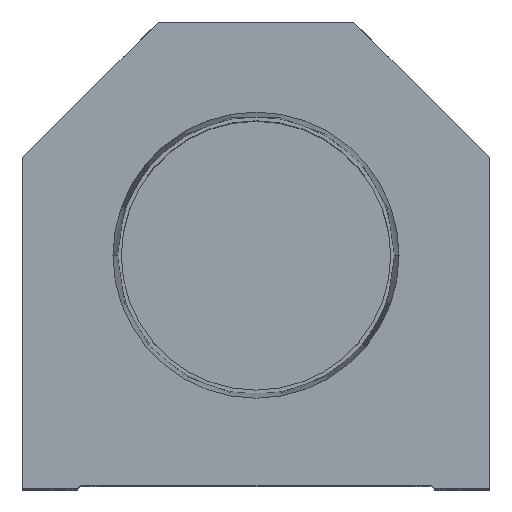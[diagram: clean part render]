
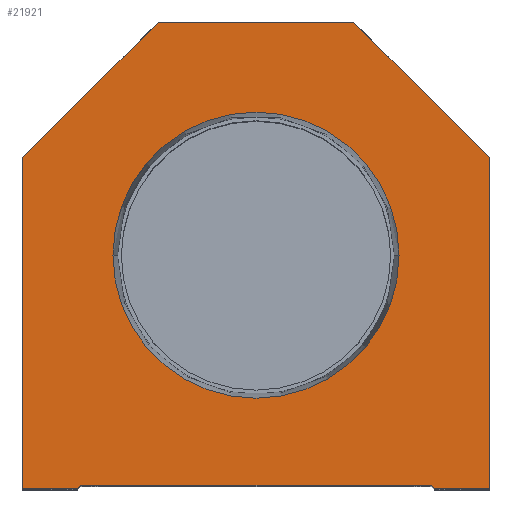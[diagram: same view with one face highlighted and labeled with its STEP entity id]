
A CAD part, top view. The second image highlights one B-rep face of the part: STEP entity #21921.
In plain terms, the highlighted planar face has unit normal (0, 0, 1).
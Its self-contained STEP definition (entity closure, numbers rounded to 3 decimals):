
#25 = EDGE_LOOP ( 'NONE', ( #15084, #17031, #11211, #6535, #15220, #6486, #11793, #7292, #10328, #7569 ) ) ;
#254 = EDGE_CURVE ( 'NONE', #734, #632, #16065, .T. ) ;
#263 = AXIS2_PLACEMENT_3D ( 'NONE', #3483, #15299, #10227 ) ;
#632 = VERTEX_POINT ( 'NONE', #1878 ) ;
#734 = VERTEX_POINT ( 'NONE', #7835 ) ;
#856 = CARTESIAN_POINT ( 'NONE',  ( -38.1, 0., 0. ) ) ;
#932 = DIRECTION ( 'NONE',  ( 1., 0., 0. ) ) ;
#1244 = FACE_OUTER_BOUND ( 'NONE', #25, .T. ) ;
#1878 = CARTESIAN_POINT ( 'NONE',  ( -38.1, 0., 0. ) ) ;
#2164 = LINE ( 'NONE', #7378, #8214 ) ;
#2434 = VERTEX_POINT ( 'NONE', #14974 ) ;
#2582 = EDGE_LOOP ( 'NONE', ( #12334, #3732 ) ) ;
#2747 = DIRECTION ( 'NONE',  ( -0.707, 0.707, 0. ) ) ;
#2836 = CARTESIAN_POINT ( 'NONE',  ( 38.1, 0., 0. ) ) ;
#3035 = LINE ( 'NONE', #21687, #14725 ) ;
#3303 = VERTEX_POINT ( 'NONE', #12957 ) ;
#3483 = CARTESIAN_POINT ( 'NONE',  ( 0., 38.1, 0. ) ) ;
#3732 = ORIENTED_EDGE ( 'NONE', *, *, #20862, .F. ) ;
#3981 = LINE ( 'NONE', #15868, #12181 ) ;
#4033 = VERTEX_POINT ( 'NONE', #8810 ) ;
#4284 = EDGE_CURVE ( 'NONE', #7764, #17236, #7236, .T. ) ;
#4377 = CARTESIAN_POINT ( 'NONE',  ( -28.6, 0.5, 0. ) ) ;
#4427 = EDGE_CURVE ( 'NONE', #632, #2434, #3035, .T. ) ;
#4461 = AXIS2_PLACEMENT_3D ( 'NONE', #12916, #14609, #932 ) ;
#4684 = VECTOR ( 'NONE', #14087, 1000. ) ;
#4967 = EDGE_CURVE ( 'NONE', #2434, #13727, #2164, .T. ) ;
#5177 = CARTESIAN_POINT ( 'NONE',  ( -23.374, 38.1, 0. ) ) ;
#5424 = LINE ( 'NONE', #7175, #13328 ) ;
#5931 = DIRECTION ( 'NONE',  ( 0., -1., 0. ) ) ;
#5938 = VERTEX_POINT ( 'NONE', #20999 ) ;
#6232 = DIRECTION ( 'NONE',  ( 1., 0., 0. ) ) ;
#6486 = ORIENTED_EDGE ( 'NONE', *, *, #17978, .T. ) ;
#6535 = ORIENTED_EDGE ( 'NONE', *, *, #13121, .T. ) ;
#7013 = CARTESIAN_POINT ( 'NONE',  ( 28.6, 0., 0. ) ) ;
#7101 = LINE ( 'NONE', #19027, #13000 ) ;
#7175 = CARTESIAN_POINT ( 'NONE',  ( -28.6, 0.5, 0. ) ) ;
#7236 = LINE ( 'NONE', #7013, #4684 ) ;
#7292 = ORIENTED_EDGE ( 'NONE', *, *, #21814, .T. ) ;
#7378 = CARTESIAN_POINT ( 'NONE',  ( -14.55, 14.55, 0. ) ) ;
#7464 = DIRECTION ( 'NONE',  ( 1., 0., 0. ) ) ;
#7569 = ORIENTED_EDGE ( 'NONE', *, *, #254, .T. ) ;
#7718 = EDGE_CURVE ( 'NONE', #5938, #734, #14228, .T. ) ;
#7764 = VERTEX_POINT ( 'NONE', #20960 ) ;
#7835 = CARTESIAN_POINT ( 'NONE',  ( -38.1, 54.1, 0. ) ) ;
#8214 = VECTOR ( 'NONE', #21169, 1000. ) ;
#8810 = CARTESIAN_POINT ( 'NONE',  ( 28.6, 0.5, 0. ) ) ;
#8859 = CARTESIAN_POINT ( 'NONE',  ( 23.374, 38.1, 0. ) ) ;
#8909 = VERTEX_POINT ( 'NONE', #14257 ) ;
#8964 = CIRCLE ( 'NONE', #18636, 23.374 ) ;
#9394 = CIRCLE ( 'NONE', #263, 23.374 ) ;
#9556 = LINE ( 'NONE', #2836, #17584 ) ;
#9768 = VECTOR ( 'NONE', #18973, 1000. ) ;
#10227 = DIRECTION ( 'NONE',  ( 1., 0., 0. ) ) ;
#10328 = ORIENTED_EDGE ( 'NONE', *, *, #7718, .T. ) ;
#11145 = VECTOR ( 'NONE', #5931, 1000. ) ;
#11211 = ORIENTED_EDGE ( 'NONE', *, *, #17564, .T. ) ;
#11793 = ORIENTED_EDGE ( 'NONE', *, *, #17700, .T. ) ;
#12181 = VECTOR ( 'NONE', #14334, 1000. ) ;
#12334 = ORIENTED_EDGE ( 'NONE', *, *, #18774, .F. ) ;
#12916 = CARTESIAN_POINT ( 'NONE',  ( 0., 0., 0. ) ) ;
#12957 = CARTESIAN_POINT ( 'NONE',  ( 16., 76.2, 0. ) ) ;
#13000 = VECTOR ( 'NONE', #13947, 1000. ) ;
#13121 = EDGE_CURVE ( 'NONE', #4033, #7764, #3981, .T. ) ;
#13143 = PLANE ( 'NONE',  #4461 ) ;
#13328 = VECTOR ( 'NONE', #14140, 1000. ) ;
#13349 = VERTEX_POINT ( 'NONE', #5177 ) ;
#13727 = VERTEX_POINT ( 'NONE', #4377 ) ;
#13947 = DIRECTION ( 'NONE',  ( -1., 0., 0. ) ) ;
#14087 = DIRECTION ( 'NONE',  ( 1., 0., 0. ) ) ;
#14140 = DIRECTION ( 'NONE',  ( 1., 0., 0. ) ) ;
#14228 = LINE ( 'NONE', #20645, #9768 ) ;
#14257 = CARTESIAN_POINT ( 'NONE',  ( 38.1, 54.1, 0. ) ) ;
#14334 = DIRECTION ( 'NONE',  ( 0.707, -0.707, 0. ) ) ;
#14609 = DIRECTION ( 'NONE',  ( 0., 0., 1. ) ) ;
#14652 = DIRECTION ( 'NONE',  ( 0., 1., 0. ) ) ;
#14721 = VERTEX_POINT ( 'NONE', #8859 ) ;
#14725 = VECTOR ( 'NONE', #6232, 1000. ) ;
#14804 = LINE ( 'NONE', #16211, #18302 ) ;
#14974 = CARTESIAN_POINT ( 'NONE',  ( -29.1, 0., 0. ) ) ;
#15084 = ORIENTED_EDGE ( 'NONE', *, *, #4427, .T. ) ;
#15220 = ORIENTED_EDGE ( 'NONE', *, *, #4284, .T. ) ;
#15299 = DIRECTION ( 'NONE',  ( 0., 0., 1. ) ) ;
#15868 = CARTESIAN_POINT ( 'NONE',  ( 14.55, 14.55, 0. ) ) ;
#16047 = DIRECTION ( 'NONE',  ( 0., 0., 1. ) ) ;
#16065 = LINE ( 'NONE', #856, #11145 ) ;
#16211 = CARTESIAN_POINT ( 'NONE',  ( 38.1, 54.1, 0. ) ) ;
#17031 = ORIENTED_EDGE ( 'NONE', *, *, #4967, .T. ) ;
#17236 = VERTEX_POINT ( 'NONE', #17788 ) ;
#17564 = EDGE_CURVE ( 'NONE', #13727, #4033, #5424, .T. ) ;
#17584 = VECTOR ( 'NONE', #14652, 1000. ) ;
#17700 = EDGE_CURVE ( 'NONE', #8909, #3303, #14804, .T. ) ;
#17788 = CARTESIAN_POINT ( 'NONE',  ( 38.1, 0., 0. ) ) ;
#17978 = EDGE_CURVE ( 'NONE', #17236, #8909, #9556, .T. ) ;
#18302 = VECTOR ( 'NONE', #2747, 1000. ) ;
#18636 = AXIS2_PLACEMENT_3D ( 'NONE', #19155, #16047, #7464 ) ;
#18774 = EDGE_CURVE ( 'NONE', #14721, #13349, #9394, .T. ) ;
#18973 = DIRECTION ( 'NONE',  ( -0.707, -0.707, 0. ) ) ;
#19027 = CARTESIAN_POINT ( 'NONE',  ( 16., 76.2, 0. ) ) ;
#19155 = CARTESIAN_POINT ( 'NONE',  ( 0., 38.1, 0. ) ) ;
#19799 = FACE_BOUND ( 'NONE', #2582, .T. ) ;
#20645 = CARTESIAN_POINT ( 'NONE',  ( -38.1, 54.1, 0. ) ) ;
#20862 = EDGE_CURVE ( 'NONE', #13349, #14721, #8964, .T. ) ;
#20960 = CARTESIAN_POINT ( 'NONE',  ( 29.1, 0., 0. ) ) ;
#20999 = CARTESIAN_POINT ( 'NONE',  ( -16., 76.2, 0. ) ) ;
#21169 = DIRECTION ( 'NONE',  ( 0.707, 0.707, 0. ) ) ;
#21687 = CARTESIAN_POINT ( 'NONE',  ( -28.6, 0., 0. ) ) ;
#21814 = EDGE_CURVE ( 'NONE', #3303, #5938, #7101, .T. ) ;
#21921 = ADVANCED_FACE ( 'NONE', ( #19799, #1244 ), #13143, .T. ) ;
